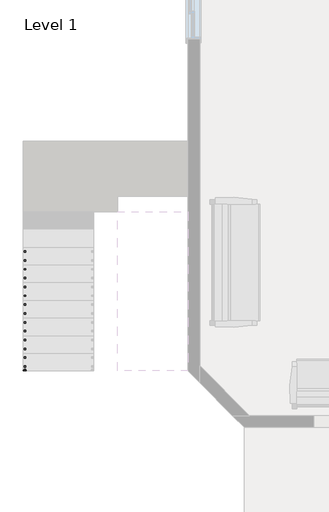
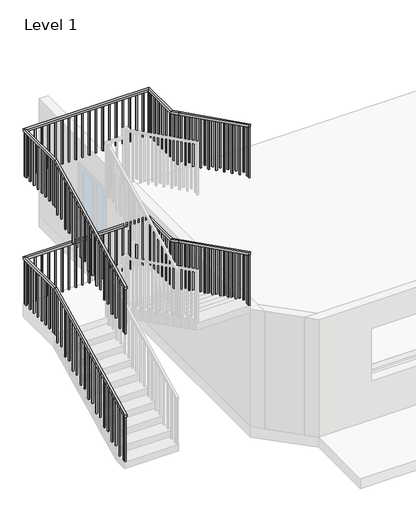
# One storey, part 3 of 4: 1 railing.
"""IFC4 building model written with IfcOpenShell, lengths in millimetres."""

from ifc_helpers import new_model, si_unit, frame, origin, place, context, project, spatial, polyline, outline, extrude, faceted_brep, element, save

model = new_model("IFC4")

# Units and contexts
model_context = context("Model", 3, world=origin())
ifc_project = project(units=[si_unit("LENGTHUNIT", "METRE", prefix="MILLI")], contexts=[model_context])

# Site, building, storey
site = spatial("IfcSite", under=ifc_project)
building = spatial("IfcBuilding", under=site)
storey = spatial("IfcBuildingStorey", under=building, Name="Level 1", Elevation=0.0)

# Railing
placement = place(None, origin())
element("IfcRailing", 1, ObjectType="1100mm", at=placement, inside=storey, context=model_context, shape_type="SolidModel", body=[
    faceted_brep([(-20162.5123896, -3896.853789, 4250.0000003), (-20162.5123896, -3896.853789, 4194.0983009), (-20112.5123896, -3896.853789, 4194.0983009), (-20112.5123896, -3896.853789, 4250.0000003), (-20162.5123896, -1196.853789, 5600.0000003), (-20162.5123896, -1185.0503902, 5550.0000003), (-20112.5123896, -1185.0503902, 5550.0000003), (-20112.5123896, -1196.853789, 5600.0000003), (-20162.5123896, 2.746211, 5600.0000003), (-20162.5123896, 2.746211, 5550.0000003), (-20112.5123896, -47.253789, 5550.0000003), (-20112.5123896, -47.253789, 5600.0000003), (-17363.3123896, 2.746211, 5600.0000003), (-17363.3123896, 2.746211, 5550.0000003), (-17413.3123896, -47.253789, 5550.0000003), (-17413.3123896, -47.253789, 5600.0000003), (-17363.3123896, -896.853789, 5600.0000003), (-17363.3123896, -908.6571879, 5550.0000003), (-17413.3123896, -908.6571879, 5550.0000003), (-17413.3123896, -896.853789, 5600.0000003), (-17363.3123896, -1196.853789, 5750.0000003), (-17363.3123896, -1219.2144688, 5705.2786408), (-17413.3123896, -1219.2144688, 5705.2786408), (-17413.3123896, -1196.853789, 5750.0000003), (-17363.3123896, -3896.853789, 7100.0000003), (-17413.3123896, -3896.853789, 7100.0000003), (-17413.3123896, -3896.853789, 7044.0983009), (-17363.3123896, -3896.853789, 7044.0983009)], [[[0, 1, 2, 3]], [[1, 0, 4, 5]], [[2, 1, 5, 6]], [[3, 2, 6, 7]], [[0, 3, 7, 4]], [[5, 4, 8, 9]], [[6, 5, 9, 10]], [[7, 6, 10, 11]], [[4, 7, 11, 8]], [[9, 8, 12, 13]], [[10, 9, 13, 14]], [[11, 10, 14, 15]], [[8, 11, 15, 12]], [[13, 12, 16, 17]], [[14, 13, 17, 18]], [[15, 14, 18, 19]], [[12, 15, 19, 16]], [[17, 16, 20, 21]], [[18, 17, 21, 22]], [[19, 18, 22, 23]], [[16, 19, 23, 20]], [[24, 25, 26, 27]], [[21, 20, 24, 27]], [[22, 21, 27, 26]], [[23, 22, 26, 25]], [[20, 23, 25, 24]]]),
    extrude(outline(polyline([(-3809.353789, 5850.0000003), (-3834.353789, 5850.0000003), (-3834.353789, 7012.8483009), (-3809.353789, 7000.3483009), (-3809.353789, 5850.0000003)])), frame((-17400.8123896, 0.0, 0.0), z_axis=(1.0, 0.0, 0.0), x_axis=(0.0, 1.0, 0.0)), (0.0, 0.0, 1.0), 25.0),
    extrude(outline(polyline([(-3659.353789, 5850.0000003), (-3684.353789, 5850.0000003), (-3684.353789, 6937.8483009), (-3659.353789, 6925.3483009), (-3659.353789, 5850.0000003)])), frame((-17400.8123896, 0.0, 0.0), z_axis=(1.0, 0.0, 0.0), x_axis=(0.0, 1.0, 0.0)), (0.0, 0.0, 1.0), 25.0),
    extrude(outline(polyline([(-3509.353789, 5700.0000003), (-3534.353789, 5700.0000003), (-3534.353789, 6862.8483009), (-3509.353789, 6850.3483009), (-3509.353789, 5700.0000003)])), frame((-17400.8123896, 0.0, 0.0), z_axis=(1.0, 0.0, 0.0), x_axis=(0.0, 1.0, 0.0)), (0.0, 0.0, 1.0), 25.0),
    extrude(outline(polyline([(-3359.353789, 5700.0000003), (-3384.353789, 5700.0000003), (-3384.353789, 6787.8483009), (-3359.353789, 6775.3483009), (-3359.353789, 5700.0000003)])), frame((-17400.8123896, 0.0, 0.0), z_axis=(1.0, 0.0, 0.0), x_axis=(0.0, 1.0, 0.0)), (0.0, 0.0, 1.0), 25.0),
    extrude(outline(polyline([(-3209.353789, 5550.0000003), (-3234.353789, 5550.0000003), (-3234.353789, 6712.8483009), (-3209.353789, 6700.3483009), (-3209.353789, 5550.0000003)])), frame((-17400.8123896, 0.0, 0.0), z_axis=(1.0, 0.0, 0.0), x_axis=(0.0, 1.0, 0.0)), (0.0, 0.0, 1.0), 25.0),
    extrude(outline(polyline([(-3059.353789, 5550.0000003), (-3084.353789, 5550.0000003), (-3084.353789, 6637.8483009), (-3059.353789, 6625.3483009), (-3059.353789, 5550.0000003)])), frame((-17400.8123896, 0.0, 0.0), z_axis=(1.0, 0.0, 0.0), x_axis=(0.0, 1.0, 0.0)), (0.0, 0.0, 1.0), 25.0),
    extrude(outline(polyline([(-2909.353789, 5400.0000003), (-2934.353789, 5400.0000003), (-2934.353789, 6562.8483009), (-2909.353789, 6550.3483009), (-2909.353789, 5400.0000003)])), frame((-17400.8123896, 0.0, 0.0), z_axis=(1.0, 0.0, 0.0), x_axis=(0.0, 1.0, 0.0)), (0.0, 0.0, 1.0), 25.0),
    extrude(outline(polyline([(-2759.353789, 5400.0000003), (-2784.353789, 5400.0000003), (-2784.353789, 6487.8483009), (-2759.353789, 6475.3483009), (-2759.353789, 5400.0000003)])), frame((-17400.8123896, 0.0, 0.0), z_axis=(1.0, 0.0, 0.0), x_axis=(0.0, 1.0, 0.0)), (0.0, 0.0, 1.0), 25.0),
    extrude(outline(polyline([(-2609.353789, 5250.0000003), (-2634.353789, 5250.0000003), (-2634.353789, 6412.8483009), (-2609.353789, 6400.3483009), (-2609.353789, 5250.0000003)])), frame((-17400.8123896, 0.0, 0.0), z_axis=(1.0, 0.0, 0.0), x_axis=(0.0, 1.0, 0.0)), (0.0, 0.0, 1.0), 25.0),
    extrude(outline(polyline([(-2459.353789, 5250.0000003), (-2484.353789, 5250.0000003), (-2484.353789, 6337.8483009), (-2459.353789, 6325.3483009), (-2459.353789, 5250.0000003)])), frame((-17400.8123896, 0.0, 0.0), z_axis=(1.0, 0.0, 0.0), x_axis=(0.0, 1.0, 0.0)), (0.0, 0.0, 1.0), 25.0),
    extrude(outline(polyline([(-2309.353789, 5100.0000003), (-2334.353789, 5100.0000003), (-2334.353789, 6262.8483009), (-2309.353789, 6250.3483009), (-2309.353789, 5100.0000003)])), frame((-17400.8123896, 0.0, 0.0), z_axis=(1.0, 0.0, 0.0), x_axis=(0.0, 1.0, 0.0)), (0.0, 0.0, 1.0), 25.0),
    extrude(outline(polyline([(-2159.353789, 5100.0000003), (-2184.353789, 5100.0000003), (-2184.353789, 6187.8483009), (-2159.353789, 6175.3483009), (-2159.353789, 5100.0000003)])), frame((-17400.8123896, 0.0, 0.0), z_axis=(1.0, 0.0, 0.0), x_axis=(0.0, 1.0, 0.0)), (0.0, 0.0, 1.0), 25.0),
    extrude(outline(polyline([(-2009.353789, 4950.0000003), (-2034.353789, 4950.0000003), (-2034.353789, 6112.8483009), (-2009.353789, 6100.3483009), (-2009.353789, 4950.0000003)])), frame((-17400.8123896, 0.0, 0.0), z_axis=(1.0, 0.0, 0.0), x_axis=(0.0, 1.0, 0.0)), (0.0, 0.0, 1.0), 25.0),
    extrude(outline(polyline([(-1859.353789, 4950.0000003), (-1884.353789, 4950.0000003), (-1884.353789, 6037.8483009), (-1859.353789, 6025.3483009), (-1859.353789, 4950.0000003)])), frame((-17400.8123896, 0.0, 0.0), z_axis=(1.0, 0.0, 0.0), x_axis=(0.0, 1.0, 0.0)), (0.0, 0.0, 1.0), 25.0),
    extrude(outline(polyline([(-1709.353789, 4800.0000003), (-1734.353789, 4800.0000003), (-1734.353789, 5962.8483009), (-1709.353789, 5950.3483009), (-1709.353789, 4800.0000003)])), frame((-17400.8123896, 0.0, 0.0), z_axis=(1.0, 0.0, 0.0), x_axis=(0.0, 1.0, 0.0)), (0.0, 0.0, 1.0), 25.0),
    extrude(outline(polyline([(-1559.353789, 4800.0000003), (-1584.353789, 4800.0000003), (-1584.353789, 5887.8483009), (-1559.353789, 5875.3483009), (-1559.353789, 4800.0000003)])), frame((-17400.8123896, 0.0, 0.0), z_axis=(1.0, 0.0, 0.0), x_axis=(0.0, 1.0, 0.0)), (0.0, 0.0, 1.0), 25.0),
    extrude(outline(polyline([(-1409.353789, 4650.0000003), (-1434.353789, 4650.0000003), (-1434.353789, 5812.8483009), (-1409.353789, 5800.3483009), (-1409.353789, 4650.0000003)])), frame((-17400.8123896, 0.0, 0.0), z_axis=(1.0, 0.0, 0.0), x_axis=(0.0, 1.0, 0.0)), (0.0, 0.0, 1.0), 25.0),
    extrude(outline(polyline([(-1259.353789, 4650.0000003), (-1284.353789, 4650.0000003), (-1284.353789, 5737.8483009), (-1259.353789, 5725.3483009), (-1259.353789, 4650.0000003)])), frame((-17400.8123896, 0.0, 0.0), z_axis=(1.0, 0.0, 0.0), x_axis=(0.0, 1.0, 0.0)), (0.0, 0.0, 1.0), 25.0),
    extrude(outline(polyline([(-1134.753789, 4500.0000003), (-1159.753789, 4500.0000003), (-1159.753789, 5675.5483009), (-1134.753789, 5663.0483009), (-1134.753789, 4500.0000003)])), frame((-17400.8123896, 0.0, 0.0), z_axis=(1.0, 0.0, 0.0), x_axis=(0.0, 1.0, 0.0)), (0.0, 0.0, 1.0), 25.0),
    extrude(outline(polyline([(-984.753789, 4500.0000003), (-1009.753789, 4500.0000003), (-1009.753789, 5600.5483009), (-984.753789, 5588.0483009), (-984.753789, 4500.0000003)])), frame((-17400.8123896, 0.0, 0.0), z_axis=(1.0, 0.0, 0.0), x_axis=(0.0, 1.0, 0.0)), (0.0, 0.0, 1.0), 25.0),
    extrude(outline(polyline([(-17375.8123896, -834.753789), (-17375.8123896, -859.753789), (-17400.8123896, -859.753789), (-17400.8123896, -834.753789), (-17375.8123896, -834.753789)])), frame((0.0, 0.0, 4500.0000003), z_axis=(0.0, 0.0, 1.0), x_axis=(1.0, 0.0, 0.0)), (0.0, 0.0, 1.0), 1050.0),
    extrude(outline(polyline([(-17375.8123896, -684.753789), (-17375.8123896, -709.753789), (-17400.8123896, -709.753789), (-17400.8123896, -684.753789), (-17375.8123896, -684.753789)])), frame((0.0, 0.0, 4500.0000003), z_axis=(0.0, 0.0, 1.0), x_axis=(1.0, 0.0, 0.0)), (0.0, 0.0, 1.0), 1050.0),
    extrude(outline(polyline([(-17375.8123896, -534.753789), (-17375.8123896, -559.753789), (-17400.8123896, -559.753789), (-17400.8123896, -534.753789), (-17375.8123896, -534.753789)])), frame((0.0, 0.0, 4500.0000003), z_axis=(0.0, 0.0, 1.0), x_axis=(1.0, 0.0, 0.0)), (0.0, 0.0, 1.0), 1050.0),
    extrude(outline(polyline([(-17375.8123896, -384.753789), (-17375.8123896, -409.753789), (-17400.8123896, -409.753789), (-17400.8123896, -384.753789), (-17375.8123896, -384.753789)])), frame((0.0, 0.0, 4500.0000003), z_axis=(0.0, 0.0, 1.0), x_axis=(1.0, 0.0, 0.0)), (0.0, 0.0, 1.0), 1050.0),
    extrude(outline(polyline([(-17375.8123896, -234.753789), (-17375.8123896, -259.753789), (-17400.8123896, -259.753789), (-17400.8123896, -234.753789), (-17375.8123896, -234.753789)])), frame((0.0, 0.0, 4500.0000003), z_axis=(0.0, 0.0, 1.0), x_axis=(1.0, 0.0, 0.0)), (0.0, 0.0, 1.0), 1050.0),
    extrude(outline(polyline([(-17375.8123896, -84.753789), (-17375.8123896, -109.753789), (-17400.8123896, -109.753789), (-17400.8123896, -84.753789), (-17375.8123896, -84.753789)])), frame((0.0, 0.0, 4500.0000003), z_axis=(0.0, 0.0, 1.0), x_axis=(1.0, 0.0, 0.0)), (0.0, 0.0, 1.0), 1050.0),
    extrude(outline(polyline([(-17525.0123896, -9.753789), (-17500.0123896, -9.753789), (-17500.0123896, -34.753789), (-17525.0123896, -34.753789), (-17525.0123896, -9.753789)])), frame((0.0, 0.0, 4500.0000003), z_axis=(0.0, 0.0, 1.0), x_axis=(1.0, 0.0, 0.0)), (0.0, 0.0, 1.0), 1050.0),
    extrude(outline(polyline([(-17675.0123896, -9.753789), (-17650.0123896, -9.753789), (-17650.0123896, -34.753789), (-17675.0123896, -34.753789), (-17675.0123896, -9.753789)])), frame((0.0, 0.0, 4500.0000003), z_axis=(0.0, 0.0, 1.0), x_axis=(1.0, 0.0, 0.0)), (0.0, 0.0, 1.0), 1050.0),
    extrude(outline(polyline([(-17825.0123896, -9.753789), (-17800.0123896, -9.753789), (-17800.0123896, -34.753789), (-17825.0123896, -34.753789), (-17825.0123896, -9.753789)])), frame((0.0, 0.0, 4500.0000003), z_axis=(0.0, 0.0, 1.0), x_axis=(1.0, 0.0, 0.0)), (0.0, 0.0, 1.0), 1050.0),
    extrude(outline(polyline([(-17975.0123896, -9.753789), (-17950.0123896, -9.753789), (-17950.0123896, -34.753789), (-17975.0123896, -34.753789), (-17975.0123896, -9.753789)])), frame((0.0, 0.0, 4500.0000003), z_axis=(0.0, 0.0, 1.0), x_axis=(1.0, 0.0, 0.0)), (0.0, 0.0, 1.0), 1050.0),
    extrude(outline(polyline([(-18125.0123896, -9.753789), (-18100.0123896, -9.753789), (-18100.0123896, -34.753789), (-18125.0123896, -34.753789), (-18125.0123896, -9.753789)])), frame((0.0, 0.0, 4500.0000003), z_axis=(0.0, 0.0, 1.0), x_axis=(1.0, 0.0, 0.0)), (0.0, 0.0, 1.0), 1050.0),
    extrude(outline(polyline([(-18275.0123896, -9.753789), (-18250.0123896, -9.753789), (-18250.0123896, -34.753789), (-18275.0123896, -34.753789), (-18275.0123896, -9.753789)])), frame((0.0, 0.0, 4500.0000003), z_axis=(0.0, 0.0, 1.0), x_axis=(1.0, 0.0, 0.0)), (0.0, 0.0, 1.0), 1050.0),
    extrude(outline(polyline([(-18425.0123896, -9.753789), (-18400.0123896, -9.753789), (-18400.0123896, -34.753789), (-18425.0123896, -34.753789), (-18425.0123896, -9.753789)])), frame((0.0, 0.0, 4500.0000003), z_axis=(0.0, 0.0, 1.0), x_axis=(1.0, 0.0, 0.0)), (0.0, 0.0, 1.0), 1050.0),
    extrude(outline(polyline([(-18575.0123896, -9.753789), (-18550.0123896, -9.753789), (-18550.0123896, -34.753789), (-18575.0123896, -34.753789), (-18575.0123896, -9.753789)])), frame((0.0, 0.0, 4500.0000003), z_axis=(0.0, 0.0, 1.0), x_axis=(1.0, 0.0, 0.0)), (0.0, 0.0, 1.0), 1050.0),
    extrude(outline(polyline([(-18725.0123896, -9.753789), (-18700.0123896, -9.753789), (-18700.0123896, -34.753789), (-18725.0123896, -34.753789), (-18725.0123896, -9.753789)])), frame((0.0, 0.0, 4500.0000003), z_axis=(0.0, 0.0, 1.0), x_axis=(1.0, 0.0, 0.0)), (0.0, 0.0, 1.0), 1050.0),
    extrude(outline(polyline([(-18875.0123896, -9.753789), (-18850.0123896, -9.753789), (-18850.0123896, -34.753789), (-18875.0123896, -34.753789), (-18875.0123896, -9.753789)])), frame((0.0, 0.0, 4500.0000003), z_axis=(0.0, 0.0, 1.0), x_axis=(1.0, 0.0, 0.0)), (0.0, 0.0, 1.0), 1050.0),
    extrude(outline(polyline([(-19025.0123896, -9.753789), (-19000.0123896, -9.753789), (-19000.0123896, -34.753789), (-19025.0123896, -34.753789), (-19025.0123896, -9.753789)])), frame((0.0, 0.0, 4500.0000003), z_axis=(0.0, 0.0, 1.0), x_axis=(1.0, 0.0, 0.0)), (0.0, 0.0, 1.0), 1050.0),
    extrude(outline(polyline([(-19175.0123896, -9.753789), (-19150.0123896, -9.753789), (-19150.0123896, -34.753789), (-19175.0123896, -34.753789), (-19175.0123896, -9.753789)])), frame((0.0, 0.0, 4500.0000003), z_axis=(0.0, 0.0, 1.0), x_axis=(1.0, 0.0, 0.0)), (0.0, 0.0, 1.0), 1050.0),
    extrude(outline(polyline([(-19325.0123896, -9.753789), (-19300.0123896, -9.753789), (-19300.0123896, -34.753789), (-19325.0123896, -34.753789), (-19325.0123896, -9.753789)])), frame((0.0, 0.0, 4500.0000003), z_axis=(0.0, 0.0, 1.0), x_axis=(1.0, 0.0, 0.0)), (0.0, 0.0, 1.0), 1050.0),
    extrude(outline(polyline([(-19475.0123896, -9.753789), (-19450.0123896, -9.753789), (-19450.0123896, -34.753789), (-19475.0123896, -34.753789), (-19475.0123896, -9.753789)])), frame((0.0, 0.0, 4500.0000003), z_axis=(0.0, 0.0, 1.0), x_axis=(1.0, 0.0, 0.0)), (0.0, 0.0, 1.0), 1050.0),
    extrude(outline(polyline([(-19625.0123896, -9.753789), (-19600.0123896, -9.753789), (-19600.0123896, -34.753789), (-19625.0123896, -34.753789), (-19625.0123896, -9.753789)])), frame((0.0, 0.0, 4500.0000003), z_axis=(0.0, 0.0, 1.0), x_axis=(1.0, 0.0, 0.0)), (0.0, 0.0, 1.0), 1050.0),
    extrude(outline(polyline([(-19775.0123896, -9.753789), (-19750.0123896, -9.753789), (-19750.0123896, -34.753789), (-19775.0123896, -34.753789), (-19775.0123896, -9.753789)])), frame((0.0, 0.0, 4500.0000003), z_axis=(0.0, 0.0, 1.0), x_axis=(1.0, 0.0, 0.0)), (0.0, 0.0, 1.0), 1050.0),
    extrude(outline(polyline([(-19925.0123896, -9.753789), (-19900.0123896, -9.753789), (-19900.0123896, -34.753789), (-19925.0123896, -34.753789), (-19925.0123896, -9.753789)])), frame((0.0, 0.0, 4500.0000003), z_axis=(0.0, 0.0, 1.0), x_axis=(1.0, 0.0, 0.0)), (0.0, 0.0, 1.0), 1050.0),
    extrude(outline(polyline([(-20075.0123896, -9.753789), (-20050.0123896, -9.753789), (-20050.0123896, -34.753789), (-20075.0123896, -34.753789), (-20075.0123896, -9.753789)])), frame((0.0, 0.0, 4500.0000003), z_axis=(0.0, 0.0, 1.0), x_axis=(1.0, 0.0, 0.0)), (0.0, 0.0, 1.0), 1050.0),
    extrude(outline(polyline([(-20150.0123896, -84.353789), (-20150.0123896, -59.353789), (-20125.0123896, -59.353789), (-20125.0123896, -84.353789), (-20150.0123896, -84.353789)])), frame((0.0, 0.0, 4500.0000003), z_axis=(0.0, 0.0, 1.0), x_axis=(1.0, 0.0, 0.0)), (0.0, 0.0, 1.0), 1050.0),
    extrude(outline(polyline([(-20150.0123896, -234.353789), (-20150.0123896, -209.353789), (-20125.0123896, -209.353789), (-20125.0123896, -234.353789), (-20150.0123896, -234.353789)])), frame((0.0, 0.0, 4500.0000003), z_axis=(0.0, 0.0, 1.0), x_axis=(1.0, 0.0, 0.0)), (0.0, 0.0, 1.0), 1050.0),
    extrude(outline(polyline([(-20150.0123896, -384.353789), (-20150.0123896, -359.353789), (-20125.0123896, -359.353789), (-20125.0123896, -384.353789), (-20150.0123896, -384.353789)])), frame((0.0, 0.0, 4500.0000003), z_axis=(0.0, 0.0, 1.0), x_axis=(1.0, 0.0, 0.0)), (0.0, 0.0, 1.0), 1050.0),
    extrude(outline(polyline([(-20150.0123896, -534.353789), (-20150.0123896, -509.353789), (-20125.0123896, -509.353789), (-20125.0123896, -534.353789), (-20150.0123896, -534.353789)])), frame((0.0, 0.0, 4500.0000003), z_axis=(0.0, 0.0, 1.0), x_axis=(1.0, 0.0, 0.0)), (0.0, 0.0, 1.0), 1050.0),
    extrude(outline(polyline([(-20150.0123896, -684.353789), (-20150.0123896, -659.353789), (-20125.0123896, -659.353789), (-20125.0123896, -684.353789), (-20150.0123896, -684.353789)])), frame((0.0, 0.0, 4500.0000003), z_axis=(0.0, 0.0, 1.0), x_axis=(1.0, 0.0, 0.0)), (0.0, 0.0, 1.0), 1050.0),
    extrude(outline(polyline([(-20150.0123896, -834.353789), (-20150.0123896, -809.353789), (-20125.0123896, -809.353789), (-20125.0123896, -834.353789), (-20150.0123896, -834.353789)])), frame((0.0, 0.0, 4500.0000003), z_axis=(0.0, 0.0, 1.0), x_axis=(1.0, 0.0, 0.0)), (0.0, 0.0, 1.0), 1050.0),
    extrude(outline(polyline([(-20150.0123896, -984.353789), (-20150.0123896, -959.353789), (-20125.0123896, -959.353789), (-20125.0123896, -984.353789), (-20150.0123896, -984.353789)])), frame((0.0, 0.0, 4500.0000003), z_axis=(0.0, 0.0, 1.0), x_axis=(1.0, 0.0, 0.0)), (0.0, 0.0, 1.0), 1050.0),
    extrude(outline(polyline([(-20150.0123896, -1134.353789), (-20150.0123896, -1109.353789), (-20125.0123896, -1109.353789), (-20125.0123896, -1134.353789), (-20150.0123896, -1134.353789)])), frame((0.0, 0.0, 4500.0000003), z_axis=(0.0, 0.0, 1.0), x_axis=(1.0, 0.0, 0.0)), (0.0, 0.0, 1.0), 1050.0),
    extrude(outline(polyline([(-1284.353789, 5500.3483009), (-1259.353789, 5512.8483009), (-1259.353789, 4350.0000003), (-1284.353789, 4350.0000003), (-1284.353789, 5500.3483009)])), frame((-20150.0123896, 0.0, 0.0), z_axis=(1.0, 0.0, 0.0), x_axis=(0.0, 1.0, 0.0)), (0.0, 0.0, 1.0), 25.0),
    extrude(outline(polyline([(-1434.353789, 5425.3483009), (-1409.353789, 5437.8483009), (-1409.353789, 4350.0000003), (-1434.353789, 4350.0000003), (-1434.353789, 5425.3483009)])), frame((-20150.0123896, 0.0, 0.0), z_axis=(1.0, 0.0, 0.0), x_axis=(0.0, 1.0, 0.0)), (0.0, 0.0, 1.0), 25.0),
    extrude(outline(polyline([(-1584.353789, 5350.3483009), (-1559.353789, 5362.8483009), (-1559.353789, 4200.0000003), (-1584.353789, 4200.0000003), (-1584.353789, 5350.3483009)])), frame((-20150.0123896, 0.0, 0.0), z_axis=(1.0, 0.0, 0.0), x_axis=(0.0, 1.0, 0.0)), (0.0, 0.0, 1.0), 25.0),
    extrude(outline(polyline([(-1734.353789, 5275.3483009), (-1709.353789, 5287.8483009), (-1709.353789, 4200.0000003), (-1734.353789, 4200.0000003), (-1734.353789, 5275.3483009)])), frame((-20150.0123896, 0.0, 0.0), z_axis=(1.0, 0.0, 0.0), x_axis=(0.0, 1.0, 0.0)), (0.0, 0.0, 1.0), 25.0),
    extrude(outline(polyline([(-1884.353789, 5200.3483009), (-1859.353789, 5212.8483009), (-1859.353789, 4050.0000003), (-1884.353789, 4050.0000003), (-1884.353789, 5200.3483009)])), frame((-20150.0123896, 0.0, 0.0), z_axis=(1.0, 0.0, 0.0), x_axis=(0.0, 1.0, 0.0)), (0.0, 0.0, 1.0), 25.0),
    extrude(outline(polyline([(-2034.353789, 5125.3483009), (-2009.353789, 5137.8483009), (-2009.353789, 4050.0000003), (-2034.353789, 4050.0000003), (-2034.353789, 5125.3483009)])), frame((-20150.0123896, 0.0, 0.0), z_axis=(1.0, 0.0, 0.0), x_axis=(0.0, 1.0, 0.0)), (0.0, 0.0, 1.0), 25.0),
    extrude(outline(polyline([(-2184.353789, 5050.3483009), (-2159.353789, 5062.8483009), (-2159.353789, 3900.0000003), (-2184.353789, 3900.0000003), (-2184.353789, 5050.3483009)])), frame((-20150.0123896, 0.0, 0.0), z_axis=(1.0, 0.0, 0.0), x_axis=(0.0, 1.0, 0.0)), (0.0, 0.0, 1.0), 25.0),
    extrude(outline(polyline([(-2334.353789, 4975.3483009), (-2309.353789, 4987.8483009), (-2309.353789, 3900.0000003), (-2334.353789, 3900.0000003), (-2334.353789, 4975.3483009)])), frame((-20150.0123896, 0.0, 0.0), z_axis=(1.0, 0.0, 0.0), x_axis=(0.0, 1.0, 0.0)), (0.0, 0.0, 1.0), 25.0),
    extrude(outline(polyline([(-2484.353789, 4900.3483009), (-2459.353789, 4912.8483009), (-2459.353789, 3750.0000003), (-2484.353789, 3750.0000003), (-2484.353789, 4900.3483009)])), frame((-20150.0123896, 0.0, 0.0), z_axis=(1.0, 0.0, 0.0), x_axis=(0.0, 1.0, 0.0)), (0.0, 0.0, 1.0), 25.0),
    extrude(outline(polyline([(-2634.353789, 4825.3483009), (-2609.353789, 4837.8483009), (-2609.353789, 3750.0000003), (-2634.353789, 3750.0000003), (-2634.353789, 4825.3483009)])), frame((-20150.0123896, 0.0, 0.0), z_axis=(1.0, 0.0, 0.0), x_axis=(0.0, 1.0, 0.0)), (0.0, 0.0, 1.0), 25.0),
    extrude(outline(polyline([(-2784.353789, 4750.3483009), (-2759.353789, 4762.8483009), (-2759.353789, 3600.0000003), (-2784.353789, 3600.0000003), (-2784.353789, 4750.3483009)])), frame((-20150.0123896, 0.0, 0.0), z_axis=(1.0, 0.0, 0.0), x_axis=(0.0, 1.0, 0.0)), (0.0, 0.0, 1.0), 25.0),
    extrude(outline(polyline([(-2934.353789, 4675.3483009), (-2909.353789, 4687.8483009), (-2909.353789, 3600.0000003), (-2934.353789, 3600.0000003), (-2934.353789, 4675.3483009)])), frame((-20150.0123896, 0.0, 0.0), z_axis=(1.0, 0.0, 0.0), x_axis=(0.0, 1.0, 0.0)), (0.0, 0.0, 1.0), 25.0),
    extrude(outline(polyline([(-3084.353789, 4600.3483009), (-3059.353789, 4612.8483009), (-3059.353789, 3450.0000003), (-3084.353789, 3450.0000003), (-3084.353789, 4600.3483009)])), frame((-20150.0123896, 0.0, 0.0), z_axis=(1.0, 0.0, 0.0), x_axis=(0.0, 1.0, 0.0)), (0.0, 0.0, 1.0), 25.0),
    extrude(outline(polyline([(-3234.353789, 4525.3483009), (-3209.353789, 4537.8483009), (-3209.353789, 3450.0000003), (-3234.353789, 3450.0000003), (-3234.353789, 4525.3483009)])), frame((-20150.0123896, 0.0, 0.0), z_axis=(1.0, 0.0, 0.0), x_axis=(0.0, 1.0, 0.0)), (0.0, 0.0, 1.0), 25.0),
    extrude(outline(polyline([(-3384.353789, 4450.3483009), (-3359.353789, 4462.8483009), (-3359.353789, 3300.0000003), (-3384.353789, 3300.0000003), (-3384.353789, 4450.3483009)])), frame((-20150.0123896, 0.0, 0.0), z_axis=(1.0, 0.0, 0.0), x_axis=(0.0, 1.0, 0.0)), (0.0, 0.0, 1.0), 25.0),
    extrude(outline(polyline([(-3534.353789, 4375.3483009), (-3509.353789, 4387.8483009), (-3509.353789, 3300.0000003), (-3534.353789, 3300.0000003), (-3534.353789, 4375.3483009)])), frame((-20150.0123896, 0.0, 0.0), z_axis=(1.0, 0.0, 0.0), x_axis=(0.0, 1.0, 0.0)), (0.0, 0.0, 1.0), 25.0),
    extrude(outline(polyline([(-3684.353789, 4300.3483009), (-3659.353789, 4312.8483009), (-3659.353789, 3150.0000003), (-3684.353789, 3150.0000003), (-3684.353789, 4300.3483009)])), frame((-20150.0123896, 0.0, 0.0), z_axis=(1.0, 0.0, 0.0), x_axis=(0.0, 1.0, 0.0)), (0.0, 0.0, 1.0), 25.0),
    extrude(outline(polyline([(-3834.353789, 4225.3483009), (-3809.353789, 4237.8483009), (-3809.353789, 3150.0000003), (-3834.353789, 3150.0000003), (-3834.353789, 4225.3483009)])), frame((-20150.0123896, 0.0, 0.0), z_axis=(1.0, 0.0, 0.0), x_axis=(0.0, 1.0, 0.0)), (0.0, 0.0, 1.0), 25.0),
    extrude(outline(polyline([(-1184.353789, 4500.0000003), (-1209.353789, 4500.0000003), (-1209.353789, 5700.3483009), (-1184.353789, 5687.8483009), (-1184.353789, 4500.0000003)])), frame((-17400.8123896, 0.0, 0.0), z_axis=(1.0, 0.0, 0.0), x_axis=(0.0, 1.0, 0.0)), (0.0, 0.0, 1.0), 25.0),
    extrude(outline(polyline([(-17400.8123896, -9.753789), (-17375.8123896, -9.753789), (-17375.8123896, -34.753789), (-17400.8123896, -34.753789), (-17400.8123896, -9.753789)])), frame((0.0, 0.0, 4500.0000003), z_axis=(0.0, 0.0, 1.0), x_axis=(1.0, 0.0, 0.0)), (0.0, 0.0, 1.0), 1050.0),
    extrude(outline(polyline([(-20150.0123896, -34.753789), (-20150.0123896, -9.753789), (-20125.0123896, -9.753789), (-20125.0123896, -34.753789), (-20150.0123896, -34.753789)])), frame((0.0, 0.0, 4500.0000003), z_axis=(0.0, 0.0, 1.0), x_axis=(1.0, 0.0, 0.0)), (0.0, 0.0, 1.0), 1050.0),
    extrude(outline(polyline([(-1209.353789, 5537.8483009), (-1184.353789, 5550.3483009), (-1184.353789, 4500.0000003), (-1209.353789, 4500.0000003), (-1209.353789, 5537.8483009)])), frame((-20150.0123896, 0.0, 0.0), z_axis=(1.0, 0.0, 0.0), x_axis=(0.0, 1.0, 0.0)), (0.0, 0.0, 1.0), 25.0),
    extrude(outline(polyline([(-3871.853789, 5850.0000003), (-3896.853789, 5850.0000003), (-3896.853789, 7044.0983009), (-3871.853789, 7031.5983009), (-3871.853789, 5850.0000003)])), frame((-17400.8123896, 0.0, 0.0), z_axis=(1.0, 0.0, 0.0), x_axis=(0.0, 1.0, 0.0)), (0.0, 0.0, 1.0), 25.0),
    extrude(outline(polyline([(-3896.853789, 4194.0983009), (-3871.853789, 4206.5983009), (-3871.853789, 3150.0000003), (-3896.853789, 3150.0000003), (-3896.853789, 4194.0983009)])), frame((-20150.0123896, 0.0, 0.0), z_axis=(1.0, 0.0, 0.0), x_axis=(0.0, 1.0, 0.0)), (0.0, 0.0, 1.0), 25.0),
    faceted_brep([(-20162.5123896, -3896.853789, 1250.0), (-20162.5123896, -3896.853789, 1194.0983006), (-20112.5123896, -3896.853789, 1194.0983006), (-20112.5123896, -3896.853789, 1250.0), (-20162.5123896, -1196.853789, 2600.0), (-20162.5123896, -1185.0503902, 2550.0), (-20112.5123896, -1185.0503902, 2550.0), (-20112.5123896, -1196.853789, 2600.0), (-20162.5123896, 2.746211, 2600.0), (-20162.5123896, 2.746211, 2550.0), (-20112.5123896, -47.253789, 2550.0), (-20112.5123896, -47.253789, 2600.0), (-17363.3123896, 2.746211, 2600.0), (-17363.3123896, 2.746211, 2550.0), (-17413.3123896, -47.253789, 2550.0), (-17413.3123896, -47.253789, 2600.0), (-17363.3123896, -896.853789, 2600.0), (-17363.3123896, -908.6571879, 2550.0), (-17413.3123896, -908.6571879, 2550.0), (-17413.3123896, -896.853789, 2600.0), (-17363.3123896, -1196.853789, 2750.0), (-17363.3123896, -1219.2144688, 2705.2786405), (-17413.3123896, -1219.2144688, 2705.2786405), (-17413.3123896, -1196.853789, 2750.0), (-17363.3123896, -3896.853789, 4100.0), (-17413.3123896, -3896.853789, 4100.0), (-17413.3123896, -3896.853789, 4044.0983006), (-17363.3123896, -3896.853789, 4044.0983006)], [[[0, 1, 2, 3]], [[1, 0, 4, 5]], [[2, 1, 5, 6]], [[3, 2, 6, 7]], [[0, 3, 7, 4]], [[5, 4, 8, 9]], [[6, 5, 9, 10]], [[7, 6, 10, 11]], [[4, 7, 11, 8]], [[9, 8, 12, 13]], [[10, 9, 13, 14]], [[11, 10, 14, 15]], [[8, 11, 15, 12]], [[13, 12, 16, 17]], [[14, 13, 17, 18]], [[15, 14, 18, 19]], [[12, 15, 19, 16]], [[17, 16, 20, 21]], [[18, 17, 21, 22]], [[19, 18, 22, 23]], [[16, 19, 23, 20]], [[24, 25, 26, 27]], [[21, 20, 24, 27]], [[22, 21, 27, 26]], [[23, 22, 26, 25]], [[20, 23, 25, 24]]]),
    extrude(outline(polyline([(-3809.353789, 2850.0), (-3834.353789, 2850.0), (-3834.353789, 4012.8483006), (-3809.353789, 4000.3483006), (-3809.353789, 2850.0)])), frame((-17400.8123896, 0.0, 0.0), z_axis=(1.0, 0.0, 0.0), x_axis=(0.0, 1.0, 0.0)), (0.0, 0.0, 1.0), 25.0),
    extrude(outline(polyline([(-3659.353789, 2850.0), (-3684.353789, 2850.0), (-3684.353789, 3937.8483006), (-3659.353789, 3925.3483006), (-3659.353789, 2850.0)])), frame((-17400.8123896, 0.0, 0.0), z_axis=(1.0, 0.0, 0.0), x_axis=(0.0, 1.0, 0.0)), (0.0, 0.0, 1.0), 25.0),
    extrude(outline(polyline([(-3509.353789, 2700.0), (-3534.353789, 2700.0), (-3534.353789, 3862.8483006), (-3509.353789, 3850.3483006), (-3509.353789, 2700.0)])), frame((-17400.8123896, 0.0, 0.0), z_axis=(1.0, 0.0, 0.0), x_axis=(0.0, 1.0, 0.0)), (0.0, 0.0, 1.0), 25.0),
    extrude(outline(polyline([(-3359.353789, 2700.0), (-3384.353789, 2700.0), (-3384.353789, 3787.8483006), (-3359.353789, 3775.3483006), (-3359.353789, 2700.0)])), frame((-17400.8123896, 0.0, 0.0), z_axis=(1.0, 0.0, 0.0), x_axis=(0.0, 1.0, 0.0)), (0.0, 0.0, 1.0), 25.0),
    extrude(outline(polyline([(-3209.353789, 2550.0), (-3234.353789, 2550.0), (-3234.353789, 3712.8483006), (-3209.353789, 3700.3483006), (-3209.353789, 2550.0)])), frame((-17400.8123896, 0.0, 0.0), z_axis=(1.0, 0.0, 0.0), x_axis=(0.0, 1.0, 0.0)), (0.0, 0.0, 1.0), 25.0),
    extrude(outline(polyline([(-3059.353789, 2550.0), (-3084.353789, 2550.0), (-3084.353789, 3637.8483006), (-3059.353789, 3625.3483006), (-3059.353789, 2550.0)])), frame((-17400.8123896, 0.0, 0.0), z_axis=(1.0, 0.0, 0.0), x_axis=(0.0, 1.0, 0.0)), (0.0, 0.0, 1.0), 25.0),
    extrude(outline(polyline([(-2909.353789, 2400.0), (-2934.353789, 2400.0), (-2934.353789, 3562.8483006), (-2909.353789, 3550.3483006), (-2909.353789, 2400.0)])), frame((-17400.8123896, 0.0, 0.0), z_axis=(1.0, 0.0, 0.0), x_axis=(0.0, 1.0, 0.0)), (0.0, 0.0, 1.0), 25.0),
    extrude(outline(polyline([(-2759.353789, 2400.0), (-2784.353789, 2400.0), (-2784.353789, 3487.8483006), (-2759.353789, 3475.3483006), (-2759.353789, 2400.0)])), frame((-17400.8123896, 0.0, 0.0), z_axis=(1.0, 0.0, 0.0), x_axis=(0.0, 1.0, 0.0)), (0.0, 0.0, 1.0), 25.0),
    extrude(outline(polyline([(-2609.353789, 2250.0), (-2634.353789, 2250.0), (-2634.353789, 3412.8483006), (-2609.353789, 3400.3483006), (-2609.353789, 2250.0)])), frame((-17400.8123896, 0.0, 0.0), z_axis=(1.0, 0.0, 0.0), x_axis=(0.0, 1.0, 0.0)), (0.0, 0.0, 1.0), 25.0),
    extrude(outline(polyline([(-2459.353789, 2250.0), (-2484.353789, 2250.0), (-2484.353789, 3337.8483006), (-2459.353789, 3325.3483006), (-2459.353789, 2250.0)])), frame((-17400.8123896, 0.0, 0.0), z_axis=(1.0, 0.0, 0.0), x_axis=(0.0, 1.0, 0.0)), (0.0, 0.0, 1.0), 25.0),
    extrude(outline(polyline([(-2309.353789, 2100.0), (-2334.353789, 2100.0), (-2334.353789, 3262.8483006), (-2309.353789, 3250.3483006), (-2309.353789, 2100.0)])), frame((-17400.8123896, 0.0, 0.0), z_axis=(1.0, 0.0, 0.0), x_axis=(0.0, 1.0, 0.0)), (0.0, 0.0, 1.0), 25.0),
    extrude(outline(polyline([(-2159.353789, 2100.0), (-2184.353789, 2100.0), (-2184.353789, 3187.8483006), (-2159.353789, 3175.3483006), (-2159.353789, 2100.0)])), frame((-17400.8123896, 0.0, 0.0), z_axis=(1.0, 0.0, 0.0), x_axis=(0.0, 1.0, 0.0)), (0.0, 0.0, 1.0), 25.0),
    extrude(outline(polyline([(-2009.353789, 1950.0), (-2034.353789, 1950.0), (-2034.353789, 3112.8483006), (-2009.353789, 3100.3483006), (-2009.353789, 1950.0)])), frame((-17400.8123896, 0.0, 0.0), z_axis=(1.0, 0.0, 0.0), x_axis=(0.0, 1.0, 0.0)), (0.0, 0.0, 1.0), 25.0),
    extrude(outline(polyline([(-1859.353789, 1950.0), (-1884.353789, 1950.0), (-1884.353789, 3037.8483006), (-1859.353789, 3025.3483006), (-1859.353789, 1950.0)])), frame((-17400.8123896, 0.0, 0.0), z_axis=(1.0, 0.0, 0.0), x_axis=(0.0, 1.0, 0.0)), (0.0, 0.0, 1.0), 25.0),
    extrude(outline(polyline([(-1709.353789, 1800.0), (-1734.353789, 1800.0), (-1734.353789, 2962.8483006), (-1709.353789, 2950.3483006), (-1709.353789, 1800.0)])), frame((-17400.8123896, 0.0, 0.0), z_axis=(1.0, 0.0, 0.0), x_axis=(0.0, 1.0, 0.0)), (0.0, 0.0, 1.0), 25.0),
    extrude(outline(polyline([(-1559.353789, 1800.0), (-1584.353789, 1800.0), (-1584.353789, 2887.8483006), (-1559.353789, 2875.3483006), (-1559.353789, 1800.0)])), frame((-17400.8123896, 0.0, 0.0), z_axis=(1.0, 0.0, 0.0), x_axis=(0.0, 1.0, 0.0)), (0.0, 0.0, 1.0), 25.0),
    extrude(outline(polyline([(-1409.353789, 1650.0), (-1434.353789, 1650.0), (-1434.353789, 2812.8483006), (-1409.353789, 2800.3483006), (-1409.353789, 1650.0)])), frame((-17400.8123896, 0.0, 0.0), z_axis=(1.0, 0.0, 0.0), x_axis=(0.0, 1.0, 0.0)), (0.0, 0.0, 1.0), 25.0),
    extrude(outline(polyline([(-1259.353789, 1650.0), (-1284.353789, 1650.0), (-1284.353789, 2737.8483006), (-1259.353789, 2725.3483006), (-1259.353789, 1650.0)])), frame((-17400.8123896, 0.0, 0.0), z_axis=(1.0, 0.0, 0.0), x_axis=(0.0, 1.0, 0.0)), (0.0, 0.0, 1.0), 25.0),
    extrude(outline(polyline([(-1134.753789, 1500.0), (-1159.753789, 1500.0), (-1159.753789, 2675.5483006), (-1134.753789, 2663.0483006), (-1134.753789, 1500.0)])), frame((-17400.8123896, 0.0, 0.0), z_axis=(1.0, 0.0, 0.0), x_axis=(0.0, 1.0, 0.0)), (0.0, 0.0, 1.0), 25.0),
    extrude(outline(polyline([(-984.753789, 1500.0), (-1009.753789, 1500.0), (-1009.753789, 2600.5483006), (-984.753789, 2588.0483006), (-984.753789, 1500.0)])), frame((-17400.8123896, 0.0, 0.0), z_axis=(1.0, 0.0, 0.0), x_axis=(0.0, 1.0, 0.0)), (0.0, 0.0, 1.0), 25.0),
    extrude(outline(polyline([(-17375.8123896, -834.753789), (-17375.8123896, -859.753789), (-17400.8123896, -859.753789), (-17400.8123896, -834.753789), (-17375.8123896, -834.753789)])), frame((0.0, 0.0, 1500.0), z_axis=(0.0, 0.0, 1.0), x_axis=(1.0, 0.0, 0.0)), (0.0, 0.0, 1.0), 1050.0),
    extrude(outline(polyline([(-17375.8123896, -684.753789), (-17375.8123896, -709.753789), (-17400.8123896, -709.753789), (-17400.8123896, -684.753789), (-17375.8123896, -684.753789)])), frame((0.0, 0.0, 1500.0), z_axis=(0.0, 0.0, 1.0), x_axis=(1.0, 0.0, 0.0)), (0.0, 0.0, 1.0), 1050.0),
    extrude(outline(polyline([(-17375.8123896, -534.753789), (-17375.8123896, -559.753789), (-17400.8123896, -559.753789), (-17400.8123896, -534.753789), (-17375.8123896, -534.753789)])), frame((0.0, 0.0, 1500.0), z_axis=(0.0, 0.0, 1.0), x_axis=(1.0, 0.0, 0.0)), (0.0, 0.0, 1.0), 1050.0),
    extrude(outline(polyline([(-17375.8123896, -384.753789), (-17375.8123896, -409.753789), (-17400.8123896, -409.753789), (-17400.8123896, -384.753789), (-17375.8123896, -384.753789)])), frame((0.0, 0.0, 1500.0), z_axis=(0.0, 0.0, 1.0), x_axis=(1.0, 0.0, 0.0)), (0.0, 0.0, 1.0), 1050.0),
    extrude(outline(polyline([(-17375.8123896, -234.753789), (-17375.8123896, -259.753789), (-17400.8123896, -259.753789), (-17400.8123896, -234.753789), (-17375.8123896, -234.753789)])), frame((0.0, 0.0, 1500.0), z_axis=(0.0, 0.0, 1.0), x_axis=(1.0, 0.0, 0.0)), (0.0, 0.0, 1.0), 1050.0),
    extrude(outline(polyline([(-17375.8123896, -84.753789), (-17375.8123896, -109.753789), (-17400.8123896, -109.753789), (-17400.8123896, -84.753789), (-17375.8123896, -84.753789)])), frame((0.0, 0.0, 1500.0), z_axis=(0.0, 0.0, 1.0), x_axis=(1.0, 0.0, 0.0)), (0.0, 0.0, 1.0), 1050.0),
    extrude(outline(polyline([(-17525.0123896, -9.753789), (-17500.0123896, -9.753789), (-17500.0123896, -34.753789), (-17525.0123896, -34.753789), (-17525.0123896, -9.753789)])), frame((0.0, 0.0, 1500.0), z_axis=(0.0, 0.0, 1.0), x_axis=(1.0, 0.0, 0.0)), (0.0, 0.0, 1.0), 1050.0),
    extrude(outline(polyline([(-17675.0123896, -9.753789), (-17650.0123896, -9.753789), (-17650.0123896, -34.753789), (-17675.0123896, -34.753789), (-17675.0123896, -9.753789)])), frame((0.0, 0.0, 1500.0), z_axis=(0.0, 0.0, 1.0), x_axis=(1.0, 0.0, 0.0)), (0.0, 0.0, 1.0), 1050.0),
    extrude(outline(polyline([(-17825.0123896, -9.753789), (-17800.0123896, -9.753789), (-17800.0123896, -34.753789), (-17825.0123896, -34.753789), (-17825.0123896, -9.753789)])), frame((0.0, 0.0, 1500.0), z_axis=(0.0, 0.0, 1.0), x_axis=(1.0, 0.0, 0.0)), (0.0, 0.0, 1.0), 1050.0),
    extrude(outline(polyline([(-17975.0123896, -9.753789), (-17950.0123896, -9.753789), (-17950.0123896, -34.753789), (-17975.0123896, -34.753789), (-17975.0123896, -9.753789)])), frame((0.0, 0.0, 1500.0), z_axis=(0.0, 0.0, 1.0), x_axis=(1.0, 0.0, 0.0)), (0.0, 0.0, 1.0), 1050.0),
    extrude(outline(polyline([(-18125.0123896, -9.753789), (-18100.0123896, -9.753789), (-18100.0123896, -34.753789), (-18125.0123896, -34.753789), (-18125.0123896, -9.753789)])), frame((0.0, 0.0, 1500.0), z_axis=(0.0, 0.0, 1.0), x_axis=(1.0, 0.0, 0.0)), (0.0, 0.0, 1.0), 1050.0),
    extrude(outline(polyline([(-18275.0123896, -9.753789), (-18250.0123896, -9.753789), (-18250.0123896, -34.753789), (-18275.0123896, -34.753789), (-18275.0123896, -9.753789)])), frame((0.0, 0.0, 1500.0), z_axis=(0.0, 0.0, 1.0), x_axis=(1.0, 0.0, 0.0)), (0.0, 0.0, 1.0), 1050.0),
    extrude(outline(polyline([(-18425.0123896, -9.753789), (-18400.0123896, -9.753789), (-18400.0123896, -34.753789), (-18425.0123896, -34.753789), (-18425.0123896, -9.753789)])), frame((0.0, 0.0, 1500.0), z_axis=(0.0, 0.0, 1.0), x_axis=(1.0, 0.0, 0.0)), (0.0, 0.0, 1.0), 1050.0),
    extrude(outline(polyline([(-18575.0123896, -9.753789), (-18550.0123896, -9.753789), (-18550.0123896, -34.753789), (-18575.0123896, -34.753789), (-18575.0123896, -9.753789)])), frame((0.0, 0.0, 1500.0), z_axis=(0.0, 0.0, 1.0), x_axis=(1.0, 0.0, 0.0)), (0.0, 0.0, 1.0), 1050.0),
    extrude(outline(polyline([(-18725.0123896, -9.753789), (-18700.0123896, -9.753789), (-18700.0123896, -34.753789), (-18725.0123896, -34.753789), (-18725.0123896, -9.753789)])), frame((0.0, 0.0, 1500.0), z_axis=(0.0, 0.0, 1.0), x_axis=(1.0, 0.0, 0.0)), (0.0, 0.0, 1.0), 1050.0),
    extrude(outline(polyline([(-18875.0123896, -9.753789), (-18850.0123896, -9.753789), (-18850.0123896, -34.753789), (-18875.0123896, -34.753789), (-18875.0123896, -9.753789)])), frame((0.0, 0.0, 1500.0), z_axis=(0.0, 0.0, 1.0), x_axis=(1.0, 0.0, 0.0)), (0.0, 0.0, 1.0), 1050.0),
    extrude(outline(polyline([(-19025.0123896, -9.753789), (-19000.0123896, -9.753789), (-19000.0123896, -34.753789), (-19025.0123896, -34.753789), (-19025.0123896, -9.753789)])), frame((0.0, 0.0, 1500.0), z_axis=(0.0, 0.0, 1.0), x_axis=(1.0, 0.0, 0.0)), (0.0, 0.0, 1.0), 1050.0),
    extrude(outline(polyline([(-19175.0123896, -9.753789), (-19150.0123896, -9.753789), (-19150.0123896, -34.753789), (-19175.0123896, -34.753789), (-19175.0123896, -9.753789)])), frame((0.0, 0.0, 1500.0), z_axis=(0.0, 0.0, 1.0), x_axis=(1.0, 0.0, 0.0)), (0.0, 0.0, 1.0), 1050.0),
    extrude(outline(polyline([(-19325.0123896, -9.753789), (-19300.0123896, -9.753789), (-19300.0123896, -34.753789), (-19325.0123896, -34.753789), (-19325.0123896, -9.753789)])), frame((0.0, 0.0, 1500.0), z_axis=(0.0, 0.0, 1.0), x_axis=(1.0, 0.0, 0.0)), (0.0, 0.0, 1.0), 1050.0),
    extrude(outline(polyline([(-19475.0123896, -9.753789), (-19450.0123896, -9.753789), (-19450.0123896, -34.753789), (-19475.0123896, -34.753789), (-19475.0123896, -9.753789)])), frame((0.0, 0.0, 1500.0), z_axis=(0.0, 0.0, 1.0), x_axis=(1.0, 0.0, 0.0)), (0.0, 0.0, 1.0), 1050.0),
    extrude(outline(polyline([(-19625.0123896, -9.753789), (-19600.0123896, -9.753789), (-19600.0123896, -34.753789), (-19625.0123896, -34.753789), (-19625.0123896, -9.753789)])), frame((0.0, 0.0, 1500.0), z_axis=(0.0, 0.0, 1.0), x_axis=(1.0, 0.0, 0.0)), (0.0, 0.0, 1.0), 1050.0),
    extrude(outline(polyline([(-19775.0123896, -9.753789), (-19750.0123896, -9.753789), (-19750.0123896, -34.753789), (-19775.0123896, -34.753789), (-19775.0123896, -9.753789)])), frame((0.0, 0.0, 1500.0), z_axis=(0.0, 0.0, 1.0), x_axis=(1.0, 0.0, 0.0)), (0.0, 0.0, 1.0), 1050.0),
    extrude(outline(polyline([(-19925.0123896, -9.753789), (-19900.0123896, -9.753789), (-19900.0123896, -34.753789), (-19925.0123896, -34.753789), (-19925.0123896, -9.753789)])), frame((0.0, 0.0, 1500.0), z_axis=(0.0, 0.0, 1.0), x_axis=(1.0, 0.0, 0.0)), (0.0, 0.0, 1.0), 1050.0),
    extrude(outline(polyline([(-20075.0123896, -9.753789), (-20050.0123896, -9.753789), (-20050.0123896, -34.753789), (-20075.0123896, -34.753789), (-20075.0123896, -9.753789)])), frame((0.0, 0.0, 1500.0), z_axis=(0.0, 0.0, 1.0), x_axis=(1.0, 0.0, 0.0)), (0.0, 0.0, 1.0), 1050.0),
    extrude(outline(polyline([(-20150.0123896, -84.353789), (-20150.0123896, -59.353789), (-20125.0123896, -59.353789), (-20125.0123896, -84.353789), (-20150.0123896, -84.353789)])), frame((0.0, 0.0, 1500.0), z_axis=(0.0, 0.0, 1.0), x_axis=(1.0, 0.0, 0.0)), (0.0, 0.0, 1.0), 1050.0),
    extrude(outline(polyline([(-20150.0123896, -234.353789), (-20150.0123896, -209.353789), (-20125.0123896, -209.353789), (-20125.0123896, -234.353789), (-20150.0123896, -234.353789)])), frame((0.0, 0.0, 1500.0), z_axis=(0.0, 0.0, 1.0), x_axis=(1.0, 0.0, 0.0)), (0.0, 0.0, 1.0), 1050.0),
    extrude(outline(polyline([(-20150.0123896, -384.353789), (-20150.0123896, -359.353789), (-20125.0123896, -359.353789), (-20125.0123896, -384.353789), (-20150.0123896, -384.353789)])), frame((0.0, 0.0, 1500.0), z_axis=(0.0, 0.0, 1.0), x_axis=(1.0, 0.0, 0.0)), (0.0, 0.0, 1.0), 1050.0),
    extrude(outline(polyline([(-20150.0123896, -534.353789), (-20150.0123896, -509.353789), (-20125.0123896, -509.353789), (-20125.0123896, -534.353789), (-20150.0123896, -534.353789)])), frame((0.0, 0.0, 1500.0), z_axis=(0.0, 0.0, 1.0), x_axis=(1.0, 0.0, 0.0)), (0.0, 0.0, 1.0), 1050.0),
    extrude(outline(polyline([(-20150.0123896, -684.353789), (-20150.0123896, -659.353789), (-20125.0123896, -659.353789), (-20125.0123896, -684.353789), (-20150.0123896, -684.353789)])), frame((0.0, 0.0, 1500.0), z_axis=(0.0, 0.0, 1.0), x_axis=(1.0, 0.0, 0.0)), (0.0, 0.0, 1.0), 1050.0),
    extrude(outline(polyline([(-20150.0123896, -834.353789), (-20150.0123896, -809.353789), (-20125.0123896, -809.353789), (-20125.0123896, -834.353789), (-20150.0123896, -834.353789)])), frame((0.0, 0.0, 1500.0), z_axis=(0.0, 0.0, 1.0), x_axis=(1.0, 0.0, 0.0)), (0.0, 0.0, 1.0), 1050.0),
    extrude(outline(polyline([(-20150.0123896, -984.353789), (-20150.0123896, -959.353789), (-20125.0123896, -959.353789), (-20125.0123896, -984.353789), (-20150.0123896, -984.353789)])), frame((0.0, 0.0, 1500.0), z_axis=(0.0, 0.0, 1.0), x_axis=(1.0, 0.0, 0.0)), (0.0, 0.0, 1.0), 1050.0),
    extrude(outline(polyline([(-20150.0123896, -1134.353789), (-20150.0123896, -1109.353789), (-20125.0123896, -1109.353789), (-20125.0123896, -1134.353789), (-20150.0123896, -1134.353789)])), frame((0.0, 0.0, 1500.0), z_axis=(0.0, 0.0, 1.0), x_axis=(1.0, 0.0, 0.0)), (0.0, 0.0, 1.0), 1050.0),
    extrude(outline(polyline([(-1284.353789, 2500.3483006), (-1259.353789, 2512.8483006), (-1259.353789, 1350.0), (-1284.353789, 1350.0), (-1284.353789, 2500.3483006)])), frame((-20150.0123896, 0.0, 0.0), z_axis=(1.0, 0.0, 0.0), x_axis=(0.0, 1.0, 0.0)), (0.0, 0.0, 1.0), 25.0),
    extrude(outline(polyline([(-1434.353789, 2425.3483006), (-1409.353789, 2437.8483006), (-1409.353789, 1350.0), (-1434.353789, 1350.0), (-1434.353789, 2425.3483006)])), frame((-20150.0123896, 0.0, 0.0), z_axis=(1.0, 0.0, 0.0), x_axis=(0.0, 1.0, 0.0)), (0.0, 0.0, 1.0), 25.0),
    extrude(outline(polyline([(-1584.353789, 2350.3483006), (-1559.353789, 2362.8483006), (-1559.353789, 1200.0), (-1584.353789, 1200.0), (-1584.353789, 2350.3483006)])), frame((-20150.0123896, 0.0, 0.0), z_axis=(1.0, 0.0, 0.0), x_axis=(0.0, 1.0, 0.0)), (0.0, 0.0, 1.0), 25.0),
    extrude(outline(polyline([(-1734.353789, 2275.3483006), (-1709.353789, 2287.8483006), (-1709.353789, 1200.0), (-1734.353789, 1200.0), (-1734.353789, 2275.3483006)])), frame((-20150.0123896, 0.0, 0.0), z_axis=(1.0, 0.0, 0.0), x_axis=(0.0, 1.0, 0.0)), (0.0, 0.0, 1.0), 25.0),
    extrude(outline(polyline([(-1884.353789, 2200.3483006), (-1859.353789, 2212.8483006), (-1859.353789, 1050.0), (-1884.353789, 1050.0), (-1884.353789, 2200.3483006)])), frame((-20150.0123896, 0.0, 0.0), z_axis=(1.0, 0.0, 0.0), x_axis=(0.0, 1.0, 0.0)), (0.0, 0.0, 1.0), 25.0),
    extrude(outline(polyline([(-2034.353789, 2125.3483006), (-2009.353789, 2137.8483006), (-2009.353789, 1050.0), (-2034.353789, 1050.0), (-2034.353789, 2125.3483006)])), frame((-20150.0123896, 0.0, 0.0), z_axis=(1.0, 0.0, 0.0), x_axis=(0.0, 1.0, 0.0)), (0.0, 0.0, 1.0), 25.0),
    extrude(outline(polyline([(-2184.353789, 2050.3483006), (-2159.353789, 2062.8483006), (-2159.353789, 900.0), (-2184.353789, 900.0), (-2184.353789, 2050.3483006)])), frame((-20150.0123896, 0.0, 0.0), z_axis=(1.0, 0.0, 0.0), x_axis=(0.0, 1.0, 0.0)), (0.0, 0.0, 1.0), 25.0),
    extrude(outline(polyline([(-2334.353789, 1975.3483006), (-2309.353789, 1987.8483006), (-2309.353789, 900.0), (-2334.353789, 900.0), (-2334.353789, 1975.3483006)])), frame((-20150.0123896, 0.0, 0.0), z_axis=(1.0, 0.0, 0.0), x_axis=(0.0, 1.0, 0.0)), (0.0, 0.0, 1.0), 25.0),
    extrude(outline(polyline([(-2484.353789, 1900.3483006), (-2459.353789, 1912.8483006), (-2459.353789, 750.0), (-2484.353789, 750.0), (-2484.353789, 1900.3483006)])), frame((-20150.0123896, 0.0, 0.0), z_axis=(1.0, 0.0, 0.0), x_axis=(0.0, 1.0, 0.0)), (0.0, 0.0, 1.0), 25.0),
    extrude(outline(polyline([(-2634.353789, 1825.3483006), (-2609.353789, 1837.8483006), (-2609.353789, 750.0), (-2634.353789, 750.0), (-2634.353789, 1825.3483006)])), frame((-20150.0123896, 0.0, 0.0), z_axis=(1.0, 0.0, 0.0), x_axis=(0.0, 1.0, 0.0)), (0.0, 0.0, 1.0), 25.0),
    extrude(outline(polyline([(-2784.353789, 1750.3483006), (-2759.353789, 1762.8483006), (-2759.353789, 600.0), (-2784.353789, 600.0), (-2784.353789, 1750.3483006)])), frame((-20150.0123896, 0.0, 0.0), z_axis=(1.0, 0.0, 0.0), x_axis=(0.0, 1.0, 0.0)), (0.0, 0.0, 1.0), 25.0),
    extrude(outline(polyline([(-2934.353789, 1675.3483006), (-2909.353789, 1687.8483006), (-2909.353789, 600.0), (-2934.353789, 600.0), (-2934.353789, 1675.3483006)])), frame((-20150.0123896, 0.0, 0.0), z_axis=(1.0, 0.0, 0.0), x_axis=(0.0, 1.0, 0.0)), (0.0, 0.0, 1.0), 25.0),
    extrude(outline(polyline([(-3084.353789, 1600.3483006), (-3059.353789, 1612.8483006), (-3059.353789, 450.0), (-3084.353789, 450.0), (-3084.353789, 1600.3483006)])), frame((-20150.0123896, 0.0, 0.0), z_axis=(1.0, 0.0, 0.0), x_axis=(0.0, 1.0, 0.0)), (0.0, 0.0, 1.0), 25.0),
    extrude(outline(polyline([(-3234.353789, 1525.3483006), (-3209.353789, 1537.8483006), (-3209.353789, 450.0), (-3234.353789, 450.0), (-3234.353789, 1525.3483006)])), frame((-20150.0123896, 0.0, 0.0), z_axis=(1.0, 0.0, 0.0), x_axis=(0.0, 1.0, 0.0)), (0.0, 0.0, 1.0), 25.0),
    extrude(outline(polyline([(-3384.353789, 1450.3483006), (-3359.353789, 1462.8483006), (-3359.353789, 300.0), (-3384.353789, 300.0), (-3384.353789, 1450.3483006)])), frame((-20150.0123896, 0.0, 0.0), z_axis=(1.0, 0.0, 0.0), x_axis=(0.0, 1.0, 0.0)), (0.0, 0.0, 1.0), 25.0),
    extrude(outline(polyline([(-3534.353789, 1375.3483006), (-3509.353789, 1387.8483006), (-3509.353789, 300.0), (-3534.353789, 300.0), (-3534.353789, 1375.3483006)])), frame((-20150.0123896, 0.0, 0.0), z_axis=(1.0, 0.0, 0.0), x_axis=(0.0, 1.0, 0.0)), (0.0, 0.0, 1.0), 25.0),
    extrude(outline(polyline([(-3684.353789, 1300.3483006), (-3659.353789, 1312.8483006), (-3659.353789, 150.0), (-3684.353789, 150.0), (-3684.353789, 1300.3483006)])), frame((-20150.0123896, 0.0, 0.0), z_axis=(1.0, 0.0, 0.0), x_axis=(0.0, 1.0, 0.0)), (0.0, 0.0, 1.0), 25.0),
    extrude(outline(polyline([(-3834.353789, 1225.3483006), (-3809.353789, 1237.8483006), (-3809.353789, 150.0), (-3834.353789, 150.0), (-3834.353789, 1225.3483006)])), frame((-20150.0123896, 0.0, 0.0), z_axis=(1.0, 0.0, 0.0), x_axis=(0.0, 1.0, 0.0)), (0.0, 0.0, 1.0), 25.0),
    extrude(outline(polyline([(-1184.353789, 1500.0), (-1209.353789, 1500.0), (-1209.353789, 2700.3483006), (-1184.353789, 2687.8483006), (-1184.353789, 1500.0)])), frame((-17400.8123896, 0.0, 0.0), z_axis=(1.0, 0.0, 0.0), x_axis=(0.0, 1.0, 0.0)), (0.0, 0.0, 1.0), 25.0),
    extrude(outline(polyline([(-17400.8123896, -9.753789), (-17375.8123896, -9.753789), (-17375.8123896, -34.753789), (-17400.8123896, -34.753789), (-17400.8123896, -9.753789)])), frame((0.0, 0.0, 1500.0), z_axis=(0.0, 0.0, 1.0), x_axis=(1.0, 0.0, 0.0)), (0.0, 0.0, 1.0), 1050.0),
    extrude(outline(polyline([(-20150.0123896, -34.753789), (-20150.0123896, -9.753789), (-20125.0123896, -9.753789), (-20125.0123896, -34.753789), (-20150.0123896, -34.753789)])), frame((0.0, 0.0, 1500.0), z_axis=(0.0, 0.0, 1.0), x_axis=(1.0, 0.0, 0.0)), (0.0, 0.0, 1.0), 1050.0),
    extrude(outline(polyline([(-1209.353789, 2537.8483006), (-1184.353789, 2550.3483006), (-1184.353789, 1500.0), (-1209.353789, 1500.0), (-1209.353789, 2537.8483006)])), frame((-20150.0123896, 0.0, 0.0), z_axis=(1.0, 0.0, 0.0), x_axis=(0.0, 1.0, 0.0)), (0.0, 0.0, 1.0), 25.0),
    extrude(outline(polyline([(-3871.853789, 2850.0), (-3896.853789, 2850.0), (-3896.853789, 4044.0983006), (-3871.853789, 4031.5983006), (-3871.853789, 2850.0)])), frame((-17400.8123896, 0.0, 0.0), z_axis=(1.0, 0.0, 0.0), x_axis=(0.0, 1.0, 0.0)), (0.0, 0.0, 1.0), 25.0),
    extrude(outline(polyline([(-3896.853789, 1194.0983006), (-3871.853789, 1206.5983006), (-3871.853789, 150.0), (-3896.853789, 150.0), (-3896.853789, 1194.0983006)])), frame((-20150.0123896, 0.0, 0.0), z_axis=(1.0, 0.0, 0.0), x_axis=(0.0, 1.0, 0.0)), (0.0, 0.0, 1.0), 25.0),
])

save(model, "model.ifc")
